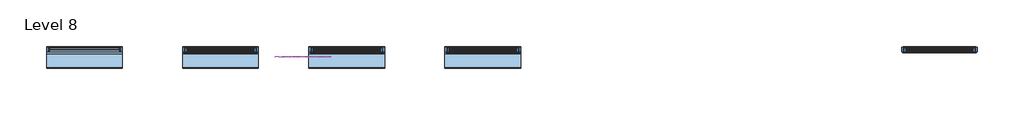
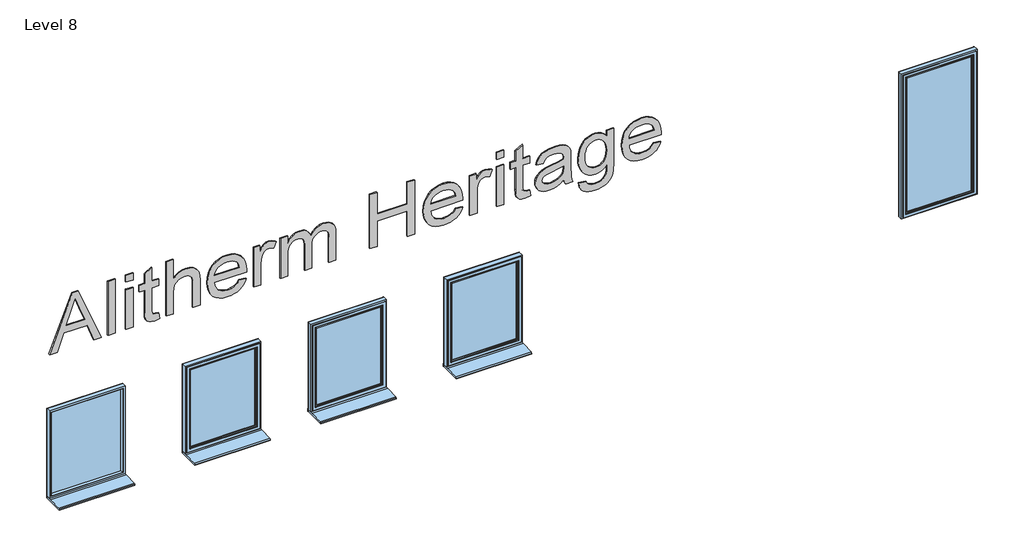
# One storey, part 1 of 2: 5 windows, 1 proxy.
"""IFC4 building model written with IfcOpenShell, lengths in millimetres."""

from ifc_helpers import new_model, si_unit, frame, origin, place, context, project, spatial, polyline, outline, extrude, transform, mapped, element, save
from components import standard_2_ab6319b0, standard_2_b6ffea32, standard_2_b24fb9ff

model = new_model("IFC4")

# Units and contexts
model_context = context("Model", 3, world=origin())
ifc_project = project(units=[si_unit("LENGTHUNIT", "METRE", prefix="MILLI")], contexts=[model_context])

# Site, building, storey
site = spatial("IfcSite", under=ifc_project)
building = spatial("IfcBuilding", under=site)
storey = spatial("IfcBuildingStorey", under=building, Name="Level 8", Elevation=21000.0)

# Proxy
placement = place(None, origin())
element("IfcBuildingElementProxy", 1, Name="600mm Arial", ObjectType="600mm Arial", at=placement, inside=storey, context=model_context, shape_type="SweptSolid", body=[
    extrude(outline(polyline([(22922.2457595, -171247.2380992), (22922.2457595, -171169.209253), (23106.8611441, -171101.709253), (23106.8611441, -170858.3919453), (22922.2457595, -170790.7477145), (22922.2457595, -170712.7188684), (23513.0149903, -170948.5361761), (23513.0149903, -171011.4207915), (22922.2457595, -171247.2380992)]), holes=[polyline([(23180.707298, -171074.5938684), (23338.6399903, -171016.7573299), (23439.1688364, -170979.9784838), (23325.9476826, -170938.584253), (23180.707298, -170885.3630992), (23180.707298, -171074.5938684)])]), frame((0.0, 24202.6264647, 0.0), z_axis=(0.0, 1.0, 0.0), x_axis=(0.0, 0.0, 1.0)), (0.0, 0.0, 1.0), 10.0),
    extrude(outline(polyline([(-170569.209253, 24202.6264647), (-170643.0554068, 24202.6264647), (-170643.0554068, 24212.6264647), (-170569.209253, 24212.6264647), (-170569.209253, 24202.6264647)])), frame((0.0, 0.0, 22922.2457595), z_axis=(0.0, 0.0, 1.0), x_axis=(1.0, 0.0, 0.0)), (0.0, 0.0, 1.0), 590.7692308),
    extrude(outline(polyline([(-170384.5938684, 24202.6264647), (-170458.4400222, 24202.6264647), (-170458.4400222, 24212.6264647), (-170384.5938684, 24212.6264647), (-170384.5938684, 24202.6264647)])), frame((0.0, 0.0, 23439.1688364), z_axis=(0.0, 0.0, 1.0), x_axis=(1.0, 0.0, 0.0)), (0.0, 0.0, 1.0), 73.8461538),
    extrude(outline(polyline([(-170384.5938684, 24202.6264647), (-170458.4400222, 24202.6264647), (-170458.4400222, 24212.6264647), (-170384.5938684, 24212.6264647), (-170384.5938684, 24202.6264647)])), frame((0.0, 0.0, 22922.2457595), z_axis=(0.0, 0.0, 1.0), x_axis=(1.0, 0.0, 0.0)), (0.0, 0.0, 1.0), 433.8461538),
    extrude(outline(polyline([(22983.832298, -170116.9015607), (22986.8611441, -170149.0650222), (22988.1051345, -170163.5782434), (22991.8371057, -170174.2332915), (23005.3226826, -170186.8534838), (23043.3996057, -170190.7477145), (23282.2457595, -170190.7477145), (23282.2457595, -170116.9015607), (23356.0919133, -170116.9015607), (23356.0919133, -170190.7477145), (23504.9380672, -170190.7477145), (23461.5246057, -170264.5938684), (23356.0919133, -170264.5938684), (23356.0919133, -170319.9784838), (23282.2457595, -170319.9784838), (23282.2457595, -170264.5938684), (23041.2361441, -170264.5938684), (22988.3395095, -170262.3582915), (22957.4380672, -170255.6515607), (22939.4452787, -170243.4640607), (22925.2746057, -170224.7861761), (22916.0798941, -170198.3558876), (22913.0149903, -170162.9111761), (22920.082298, -170107.6707915), (22983.832298, -170116.9015607)])), frame((0.0, 24202.6264647, 0.0), z_axis=(0.0, 1.0, 0.0), x_axis=(0.0, 0.0, 1.0)), (0.0, 0.0, 1.0), 10.0),
    extrude(outline(polyline([(22922.2457595, -170043.0554068), (22922.2457595, -169969.209253), (23152.7265287, -169969.209253), (23196.9693172, -169966.1984357), (23230.4669133, -169957.1659838), (23255.6712403, -169941.0481953), (23275.034221, -169916.7813684), (23287.3659518, -169887.4844934), (23291.4765287, -169856.2765607), (23289.9530912, -169835.9400222), (23285.3827787, -169818.0554068), (23277.7655912, -169802.6227145), (23267.1015287, -169789.6419453), (23253.0931153, -169779.3564886), (23235.4428749, -169772.0097338), (23214.1508076, -169767.6016809), (23189.2169133, -169766.1323299), (22922.2457595, -169766.1323299), (22922.2457595, -169692.2861761), (23196.8611441, -169692.2861761), (23252.9308557, -169696.0722338), (23293.9284518, -169707.4304068), (23323.7661922, -169727.5866568), (23346.3563364, -169757.7669453), (23360.581096, -169796.0962722), (23365.3226826, -169840.6996376), (23360.9777307, -169877.8300463), (23347.9428749, -169911.6251184), (23326.2181153, -169942.084854), (23295.8034518, -169969.209253), (23513.0149903, -169969.209253), (23513.0149903, -170043.0554068), (22922.2457595, -170043.0554068)])), frame((0.0, 24202.6264647, 0.0), z_axis=(0.0, 1.0, 0.0), x_axis=(0.0, 0.0, 1.0)), (0.0, 0.0, 1.0), 10.0),
    extrude(outline(polyline([(23051.4765287, -169286.9977145), (23022.3058557, -169307.6948299), (23002.2938364, -169334.5938684), (22990.7193172, -169367.6948299), (22986.8611441, -169406.9977145), (22988.9434758, -169434.3069092), (22995.190471, -169459.2633395), (23005.6021297, -169481.8670054), (23020.1784518, -169502.1179068), (23038.6670335, -169519.0785439), (23060.815471, -169531.8114165), (23086.6237643, -169540.3165246), (23116.0919133, -169544.5938684), (23116.0919133, -169212.7188684), (23135.9957595, -169212.2861761), (23187.4591008, -169215.7882794), (23232.8106633, -169226.2945895), (23272.050447, -169243.8051064), (23305.1784518, -169268.3198299), (23331.4915528, -169298.3513804), (23350.2866249, -169332.412378), (23361.5636682, -169370.5028227), (23365.3226826, -169412.6227145), (23361.5546537, -169456.1443492), (23350.2505672, -169495.4111761), (23331.410423, -169530.4231953), (23305.034221, -169561.1804068), (23271.8341008, -169586.2314886), (23232.5222018, -169604.1251184), (23187.0985239, -169614.8612963), (23135.5630672, -169618.4400222), (23085.7178148, -169614.897354), (23041.7589807, -169604.2693492), (23003.6865648, -169586.5560078), (22971.5005672, -169561.7573299), (22945.9131273, -169530.9189886), (22927.6363845, -169495.0866568), (22916.6703388, -169454.2603347), (22913.0149903, -169408.4400222), (22915.1333797, -169371.7828708), (22921.488548, -169338.5421857), (22932.0804951, -169308.7179669), (22946.909221, -169282.3102145), (22965.5780912, -169259.5533035), (22987.690471, -169240.6816088), (23013.2463605, -169225.6951304), (23042.2457595, -169214.5938684), (23051.4765287, -169286.9977145)]), holes=[polyline([(23189.9380672, -169544.5938684), (23211.9197379, -169540.5869573), (23231.566673, -169532.4604549), (23248.8788725, -169520.2143612), (23263.8563364, -169503.8486761), (23275.9401706, -169484.3459717), (23284.5714807, -169462.6888203), (23289.7502667, -169438.8772217), (23291.4765287, -169412.9111761), (23289.3130672, -169384.443628), (23282.8226826, -169358.7525222), (23272.0053749, -169335.8378588), (23256.8611441, -169315.6996376), (23244.2950383, -169304.7110559), (23228.9524903, -169296.1203107), (23189.9380672, -169286.1323299), (23189.9380672, -169544.5938684)])]), frame((0.0, 24202.6264647, 0.0), z_axis=(0.0, 1.0, 0.0), x_axis=(0.0, 0.0, 1.0)), (0.0, 0.0, 1.0), 10.0),
    extrude(outline(polyline([(22922.2457595, -169138.4400222), (22922.2457595, -169064.5938684), (23150.2746057, -169064.5938684), (23195.2746057, -169061.6010799), (23236.5246057, -169052.6227145), (23259.5294133, -169041.9316088), (23276.909221, -169026.0121376), (23287.8347018, -169006.3066088), (23291.4765287, -168984.2573299), (23287.690471, -168958.2957915), (23276.332298, -168932.334253), (23342.534221, -168907.6707915), (23359.6255672, -168945.0265607), (23365.3226826, -168981.8054068), (23361.752971, -169005.8919453), (23351.0438364, -169027.959253), (23329.1207595, -169049.9544453), (23291.909221, -169073.8246376), (23356.0919133, -169073.8246376), (23356.0919133, -169138.4400222), (22922.2457595, -169138.4400222)])), frame((0.0, 24202.6264647, 0.0), z_axis=(0.0, 1.0, 0.0), x_axis=(0.0, 0.0, 1.0)), (0.0, 0.0, 1.0), 10.0),
    extrude(outline(polyline([(22922.2457595, -168861.5169453), (22922.2457595, -168787.6707915), (23141.0438364, -168787.6707915), (23191.8491249, -168784.8582915), (23229.1688364, -168776.4207915), (23256.0678749, -168761.709253), (23275.6111441, -168740.0746376), (23287.5101826, -168713.8606953), (23291.4765287, -168685.4111761), (23289.9891489, -168667.3057073), (23285.5270095, -168651.9316088), (23278.0901105, -168639.2888804), (23267.6784518, -168629.3775222), (23237.894798, -168616.5590126), (23196.1399903, -168612.2861761), (22922.2457595, -168612.2861761), (22922.2457595, -168538.4400222), (23167.1496057, -168538.4400222), (23197.519197, -168536.6326304), (23223.4356633, -168531.2104549), (23244.8990047, -168522.1734958), (23261.909221, -168509.521753), (23274.8449182, -168494.13864), (23284.0847018, -168476.9075703), (23289.628572, -168457.8285439), (23291.4765287, -168436.9015607), (23288.5919133, -168414.2393011), (23279.9380672, -168394.7140607), (23266.5786922, -168379.5337722), (23249.5774903, -168369.9063684), (23224.7517691, -168364.7681472), (23187.9188364, -168363.0554068), (22922.2457595, -168363.0554068), (22922.2457595, -168289.209253), (23219.6496057, -168289.209253), (23254.3776706, -168291.3231352), (23284.2830191, -168297.6647818), (23309.3656513, -168308.2341929), (23329.6255672, -168323.0313684), (23345.2430552, -168341.7498179), (23356.3984037, -168364.0830511), (23363.0916129, -168390.0310679), (23365.3226826, -168419.5938684), (23359.9591008, -168457.8691088), (23343.8683557, -168492.3582915), (23317.050447, -168523.0614165), (23279.5053749, -168549.9784838), (23315.6532114, -168566.0602145), (23342.7505672, -168590.6515607), (23352.6258677, -168606.0932674), (23359.6796537, -168623.5722338), (23365.3226826, -168664.6419453), (23359.7878268, -168702.9712722), (23343.1832595, -168736.9015607), (23317.4921537, -168765.459253), (23284.6976826, -168787.6707915), (23356.0919133, -168787.6707915), (23356.0919133, -168861.5169453), (22922.2457595, -168861.5169453)])), frame((0.0, 24202.6264647, 0.0), z_axis=(0.0, 1.0, 0.0), x_axis=(0.0, 0.0, 1.0)), (0.0, 0.0, 1.0), 10.0),
    extrude(outline(polyline([(22922.2457595, -167938.4400222), (22922.2457595, -167864.5938684), (23199.1688364, -167864.5938684), (23199.1688364, -167550.7477145), (22922.2457595, -167550.7477145), (22922.2457595, -167476.9015607), (23513.0149903, -167476.9015607), (23513.0149903, -167550.7477145), (23273.0149903, -167550.7477145), (23273.0149903, -167864.5938684), (23513.0149903, -167864.5938684), (23513.0149903, -167938.4400222), (22922.2457595, -167938.4400222)])), frame((0.0, 24202.6264647, 0.0), z_axis=(0.0, 1.0, 0.0), x_axis=(0.0, 0.0, 1.0)), (0.0, 0.0, 1.0), 10.0),
    extrude(outline(polyline([(23051.4765287, -167053.1515607), (23022.3058557, -167073.8486761), (23002.2938364, -167100.7477145), (22990.7193172, -167133.8486761), (22986.8611441, -167173.1515607), (22988.9434758, -167200.4607554), (22995.190471, -167225.4171857), (23005.6021297, -167248.0208516), (23020.1784518, -167268.271753), (23038.6670335, -167285.23239), (23060.815471, -167297.9652626), (23086.6237643, -167306.4703708), (23116.0919133, -167310.7477145), (23116.0919133, -166978.8727145), (23135.9957595, -166978.4400222), (23187.4591008, -166981.9421256), (23232.8106633, -166992.4484357), (23272.050447, -167009.9589525), (23305.1784518, -167034.4736761), (23331.4915528, -167064.5052266), (23350.2866249, -167098.5662242), (23361.5636682, -167136.6566689), (23365.3226826, -167178.7765607), (23361.5546537, -167222.2981953), (23350.2505672, -167261.5650222), (23331.410423, -167296.5770415), (23305.034221, -167327.334253), (23271.8341008, -167352.3853347), (23232.5222018, -167370.2789645), (23187.0985239, -167381.0151424), (23135.5630672, -167384.5938684), (23085.7178148, -167381.0512001), (23041.7589807, -167370.4231953), (23003.6865648, -167352.709854), (22971.5005672, -167327.9111761), (22945.9131273, -167297.0728347), (22927.6363845, -167261.240503), (22916.6703388, -167220.4141809), (22913.0149903, -167174.5938684), (22915.1333797, -167137.9367169), (22921.488548, -167104.6960318), (22932.0804951, -167074.8718131), (22946.909221, -167048.4640607), (22965.5780912, -167025.7071496), (22987.690471, -167006.8354549), (23013.2463605, -166991.8489766), (23042.2457595, -166980.7477145), (23051.4765287, -167053.1515607)]), holes=[polyline([(23189.9380672, -167310.7477145), (23211.9197379, -167306.7408035), (23231.566673, -167298.6143011), (23248.8788725, -167286.3682073), (23263.8563364, -167270.0025222), (23275.9401706, -167250.4998179), (23284.5714807, -167228.8426665), (23289.7502667, -167205.0310679), (23291.4765287, -167179.0650222), (23289.3130672, -167150.5974742), (23282.8226826, -167124.9063684), (23272.0053749, -167101.9917049), (23256.8611441, -167081.8534838), (23244.2950383, -167070.864902), (23228.9524903, -167062.2741568), (23189.9380672, -167052.2861761), (23189.9380672, -167310.7477145)])]), frame((0.0, 24202.6264647, 0.0), z_axis=(0.0, 1.0, 0.0), x_axis=(0.0, 0.0, 1.0)), (0.0, 0.0, 1.0), 10.0),
    extrude(outline(polyline([(22922.2457595, -166904.5938684), (22922.2457595, -166830.7477145), (23150.2746057, -166830.7477145), (23195.2746057, -166827.7549261), (23236.5246057, -166818.7765607), (23259.5294133, -166808.0854549), (23276.909221, -166792.1659838), (23287.8347018, -166772.4604549), (23291.4765287, -166750.4111761), (23287.690471, -166724.4496376), (23276.332298, -166698.4880992), (23342.534221, -166673.8246376), (23359.6255672, -166711.1804068), (23365.3226826, -166747.959253), (23361.752971, -166772.0457915), (23351.0438364, -166794.1130992), (23329.1207595, -166816.1082915), (23291.909221, -166839.9784838), (23356.0919133, -166839.9784838), (23356.0919133, -166904.5938684), (22922.2457595, -166904.5938684)])), frame((0.0, 24202.6264647, 0.0), z_axis=(0.0, 1.0, 0.0), x_axis=(0.0, 0.0, 1.0)), (0.0, 0.0, 1.0), 10.0),
    extrude(outline(polyline([(-166553.8246376, 24202.6264647), (-166627.6707915, 24202.6264647), (-166627.6707915, 24212.6264647), (-166553.8246376, 24212.6264647), (-166553.8246376, 24202.6264647)])), frame((0.0, 0.0, 23439.1688364), z_axis=(0.0, 0.0, 1.0), x_axis=(1.0, 0.0, 0.0)), (0.0, 0.0, 1.0), 73.8461538),
    extrude(outline(polyline([(-166553.8246376, 24202.6264647), (-166627.6707915, 24202.6264647), (-166627.6707915, 24212.6264647), (-166553.8246376, 24212.6264647), (-166553.8246376, 24202.6264647)])), frame((0.0, 0.0, 22922.2457595), z_axis=(0.0, 0.0, 1.0), x_axis=(1.0, 0.0, 0.0)), (0.0, 0.0, 1.0), 433.8461538),
    extrude(outline(polyline([(22983.832298, -166286.1323299), (22986.8611441, -166318.2957915), (22988.1051345, -166332.8090126), (22991.8371057, -166343.4640607), (23005.3226826, -166356.084253), (23043.3996057, -166359.9784838), (23282.2457595, -166359.9784838), (23282.2457595, -166286.1323299), (23356.0919133, -166286.1323299), (23356.0919133, -166359.9784838), (23504.9380672, -166359.9784838), (23461.5246057, -166433.8246376), (23356.0919133, -166433.8246376), (23356.0919133, -166489.209253), (23282.2457595, -166489.209253), (23282.2457595, -166433.8246376), (23041.2361441, -166433.8246376), (22988.3395095, -166431.5890607), (22957.4380672, -166424.8823299), (22939.4452787, -166412.6948299), (22925.2746057, -166394.0169453), (22916.0798941, -166367.5866568), (22913.0149903, -166332.1419453), (22920.082298, -166276.9015607), (22983.832298, -166286.1323299)])), frame((0.0, 24202.6264647, 0.0), z_axis=(0.0, 1.0, 0.0), x_axis=(0.0, 0.0, 1.0)), (0.0, 0.0, 1.0), 10.0),
    extrude(outline(polyline([(22977.6303749, -165935.3630992), (22947.9188364, -165928.7284838), (22922.2457595, -165916.9015607), (22922.2457595, -165843.0554068), (22952.6243653, -165852.2140607), (22984.3371057, -165857.7669453), (23112.6303749, -165861.5169453), (23204.5053749, -165861.5169453), (23269.1207595, -165865.1227145), (23296.7950383, -165874.0289645), (23319.2409518, -165887.7669453), (23337.3959999, -165908.4820895), (23352.1976826, -165938.3198299), (23362.0414326, -165977.8931472), (23365.3226826, -166027.8150222), (23361.6087403, -166079.8643011), (23350.4669133, -166125.2429068), (23332.4741249, -166162.3462722), (23308.207298, -166189.5698299), (23276.4765287, -166208.6984357), (23236.0919133, -166221.5169453), (23226.8611441, -166147.6707915), (23257.5642691, -166132.9953107), (23277.269798, -166112.0457915), (23287.924846, -166081.3246376), (23291.4765287, -166037.334253), (23286.1399903, -165989.8102145), (23279.4693172, -165971.0782434), (23270.1303749, -165955.6996376), (23260.7734037, -165946.802402), (23248.5678749, -165940.4472338), (23215.6111441, -165935.3630992), (23199.1688364, -165935.7957915), (23185.4669133, -165988.3679068), (23173.784221, -166063.8727145), (23162.6784518, -166127.7669453), (23152.5101826, -166155.0445895), (23138.4476826, -166179.4736761), (23119.8419133, -166200.2609357), (23096.0438364, -166216.6130992), (23068.2433557, -166227.2140607), (23037.6303749, -166230.7477145), (23011.5877066, -166228.4084717), (22987.9789326, -166221.3907434), (22966.8040528, -166209.6945294), (22948.0630672, -166193.3198299), (22932.7295335, -166172.5821496), (22921.7770095, -166147.7969934), (22915.2054951, -166118.9643612), (22913.0149903, -166086.084253), (22916.6568172, -166045.1768011), (22927.582298, -166006.9736761), (22947.377971, -165970.6455511), (22977.6303749, -165935.3630992)]), holes=[polyline([(23125.3226826, -165935.3630992), (23104.409221, -165935.7957915), (23071.2361441, -165938.7164645), (23047.2938364, -165947.4784838), (23024.0546537, -165967.2380992), (23004.5294133, -165995.6515607), (22991.2782114, -166030.6996376), (22986.8611441, -166070.3630992), (22990.863548, -166107.7729549), (23002.8707595, -166134.9063684), (23020.863548, -166151.4027626), (23042.8226826, -166156.9015607), (23057.7145095, -166154.3775222), (23071.2361441, -166146.8054068), (23082.5222018, -166134.5638203), (23090.707298, -166118.0313684), (23102.6784518, -166054.4977145), (23113.0270095, -165984.9784838), (23125.3226826, -165935.3630992)])]), frame((0.0, 24202.6264647, 0.0), z_axis=(0.0, 1.0, 0.0), x_axis=(0.0, 0.0, 1.0)), (0.0, 0.0, 1.0), 10.0),
    extrude(outline(polyline([(22885.3226826, -165778.4400222), (22852.8121657, -165776.2089525), (22824.6556153, -165767.9292049), (22800.8530311, -165753.6007794), (22781.4044133, -165733.2236761), (22766.2917331, -165707.9968131), (22755.4969614, -165679.1191088), (22749.0200984, -165646.5905631), (22746.8611441, -165610.4111761), (22748.393596, -165579.6584717), (22752.9909518, -165551.4388203), (22760.6532114, -165525.7522217), (22771.3803749, -165502.5986761), (22784.7442571, -165482.185515), (22800.316673, -165464.7200703), (22818.0976225, -165450.2023419), (22838.0871057, -165438.6323299), (22862.8722619, -165429.7981953), (22895.0402307, -165423.4880992), (22981.5246057, -165418.4400222), (23356.0919133, -165418.4400222), (23356.0919133, -165492.2861761), (23300.707298, -165492.2861761), (23328.9765287, -165517.2471136), (23349.1688364, -165545.3991568), (23361.284221, -165576.7423059), (23365.3226826, -165611.2765607), (23363.5378268, -165637.4409237), (23358.1832595, -165661.8474742), (23349.2589807, -165684.4962121), (23336.7649903, -165705.3871376), (23320.9942571, -165724.2182674), (23302.2397499, -165740.6876184), (23280.5014686, -165754.7951905), (23255.7794133, -165766.5409838), (23200.9536922, -165782.3883395), (23141.332298, -165787.6707915), (23097.8647499, -165784.7275823), (23057.6063364, -165775.8979549), (23020.5570576, -165761.1819092), (22986.7169133, -165740.5794453), (22958.5107835, -165714.6133996), (22938.363548, -165683.8066088), (22926.2752066, -165648.1590727), (22922.2457595, -165607.6707915), (22925.707298, -165574.5518011), (22936.0919133, -165544.2813684), (22953.3996057, -165516.8594934), (22977.6303749, -165492.2861761), (22923.2914326, -165493.3318492), (22891.5246057, -165497.334253), (22861.6688364, -165511.0361761), (22839.3130672, -165533.3919453), (22831.1730432, -165548.1215126), (22825.3587403, -165565.6275222), (22820.707298, -165608.9688684), (22824.8178749, -165649.6058876), (22837.1496057, -165680.6515607), (22853.0149903, -165696.4448299), (22876.0919133, -165704.5938684), (22885.3226826, -165778.4400222)]), holes=[polyline([(23146.3803749, -165713.8246376), (23180.1529109, -165711.8279429), (23209.4993653, -165705.8378588), (23234.4197379, -165695.8543852), (23254.9140287, -165681.8775222), (23270.9101225, -165665.0521016), (23282.3359037, -165646.5229549), (23289.1913725, -165626.2900823), (23291.4765287, -165604.3534838), (23289.1553148, -165582.0427867), (23282.191673, -165561.4087722), (23270.5856032, -165542.4514405), (23254.3371057, -165525.1707915), (23233.52731, -165510.7837722), (23208.237346, -165500.5073299), (23178.4672138, -165494.3414645), (23144.2169133, -165492.2861761), (23108.4747258, -165494.2828708), (23077.8347018, -165500.2729549), (23052.2968412, -165510.2564285), (23031.8611441, -165524.2332915), (23016.2121057, -165541.1488564), (23005.034221, -165559.9484357), (22998.3274903, -165580.6320294), (22996.0919133, -165603.1996376), (22998.3410119, -165625.9926064), (23005.0883076, -165646.7753588), (23016.3338004, -165665.5478948), (23032.0774903, -165682.3102145), (23052.7160119, -165696.0977746), (23078.6459999, -165705.9460318), (23109.8674542, -165711.8549862), (23146.3803749, -165713.8246376)])]), frame((0.0, 24202.6264647, 0.0), z_axis=(0.0, 1.0, 0.0), x_axis=(0.0, 0.0, 1.0)), (0.0, 0.0, 1.0), 10.0),
    extrude(outline(polyline([(23051.4765287, -165003.9207915), (23022.3058557, -165024.6179068), (23002.2938364, -165051.5169453), (22990.7193172, -165084.6179068), (22986.8611441, -165123.9207915), (22988.9434758, -165151.2299862), (22995.190471, -165176.1864165), (23005.6021297, -165198.7900823), (23020.1784518, -165219.0409838), (23038.6670335, -165236.0016208), (23060.815471, -165248.7344934), (23086.6237643, -165257.2396016), (23116.0919133, -165261.5169453), (23116.0919133, -164929.6419453), (23135.9957595, -164929.209253), (23187.4591008, -164932.7113564), (23232.8106633, -164943.2176665), (23272.050447, -164960.7281833), (23305.1784518, -164985.2429068), (23331.4915528, -165015.2744573), (23350.2866249, -165049.3354549), (23361.5636682, -165087.4258996), (23365.3226826, -165129.5457915), (23361.5546537, -165173.0674261), (23350.2505672, -165212.334253), (23331.410423, -165247.3462722), (23305.034221, -165278.1034838), (23271.8341008, -165303.1545655), (23232.5222018, -165321.0481953), (23187.0985239, -165331.7843732), (23135.5630672, -165335.3630992), (23085.7178148, -165331.8204309), (23041.7589807, -165321.1924261), (23003.6865648, -165303.4790847), (22971.5005672, -165278.6804068), (22945.9131273, -165247.8420655), (22927.6363845, -165212.0097338), (22916.6703388, -165171.1834117), (22913.0149903, -165125.3630992), (22915.1333797, -165088.7059477), (22921.488548, -165055.4652626), (22932.0804951, -165025.6410439), (22946.909221, -164999.2332915), (22965.5780912, -164976.4763804), (22987.690471, -164957.6046857), (23013.2463605, -164942.6182073), (23042.2457595, -164931.5169453), (23051.4765287, -165003.9207915)]), holes=[polyline([(23189.9380672, -165261.5169453), (23211.9197379, -165257.5100342), (23231.566673, -165249.3835318), (23248.8788725, -165237.1374381), (23263.8563364, -165220.771753), (23275.9401706, -165201.2690487), (23284.5714807, -165179.6118972), (23289.7502667, -165155.8002987), (23291.4765287, -165129.834253), (23289.3130672, -165101.3667049), (23282.8226826, -165075.6755992), (23272.0053749, -165052.7609357), (23256.8611441, -165032.6227145), (23244.2950383, -165021.6341328), (23228.9524903, -165013.0433876), (23189.9380672, -165003.0554068), (23189.9380672, -165261.5169453)])]), frame((0.0, 24202.6264647, 0.0), z_axis=(0.0, 1.0, 0.0), x_axis=(0.0, 0.0, 1.0)), (0.0, 0.0, 1.0), 10.0),
])

# Windows
standard_2_shape = standard_2_ab6319b0(model_context)
element("IfcWindow", 2, ObjectType="SMARTS_AlithermHeritage : Standard 2", at=placement, inside=storey, context=model_context, shape_type="MappedRepresentation", body=[
    mapped(standard_2_shape, transform((-166723.3801149, 24355.9063079, 20668.8184812), x_axis=(-1.0, 0.0, 0.0), y_axis=(0.0, -1.0, 0.0), z_axis=(0.0, 0.0, 1.0))),
])
element("IfcWindow", 3, ObjectType="SMARTS_AlithermHeritage : Standard 2", at=placement, inside=storey, context=model_context, shape_type="MappedRepresentation", body=[
    mapped(standard_2_shape, transform((-168123.3801149, 24355.9063079, 20668.8184812), x_axis=(-1.0, 0.0, 0.0), y_axis=(0.0, -1.0, 0.0), z_axis=(0.0, 0.0, 1.0))),
])
standard_2_2_shape = standard_2_b6ffea32(model_context)
element("IfcWindow", 4, ObjectType="SMARTS_AlithermHeritage : Standard 2", at=placement, inside=storey, context=model_context, shape_type="MappedRepresentation", body=[
    mapped(standard_2_2_shape, transform((-162023.3801149, 24355.9063079, 20668.8184812), x_axis=(-1.0, 0.0, 0.0), y_axis=(0.0, -1.0, 0.0), z_axis=(0.0, 0.0, 1.0))),
])
standard_2_3_shape = standard_2_b24fb9ff(model_context)
element("IfcWindow", 5, ObjectType="SMARTS_AlithermHeritage : Standard 2", at=placement, inside=storey, context=model_context, shape_type="MappedRepresentation", body=[
    mapped(standard_2_3_shape, transform((-170823.3801149, 24355.9063079, 20668.8184812), x_axis=(-1.0, 0.0, 0.0), y_axis=(0.0, -1.0, 0.0), z_axis=(0.0, 0.0, 1.0))),
])
element("IfcWindow", 6, ObjectType="SMARTS_AlithermHeritage : Standard 2", at=placement, inside=storey, context=model_context, shape_type="MappedRepresentation", body=[
    mapped(standard_2_shape, transform((-169423.3801149, 24355.9063079, 20668.8184812), x_axis=(-1.0, 0.0, 0.0), y_axis=(0.0, -1.0, 0.0), z_axis=(0.0, 0.0, 1.0))),
])

save(model, "model.ifc")
